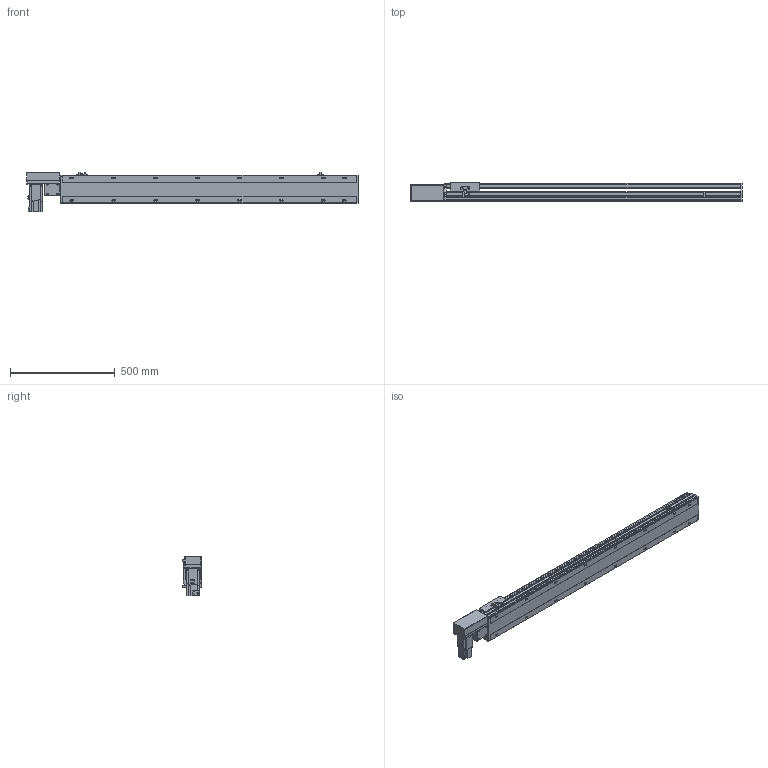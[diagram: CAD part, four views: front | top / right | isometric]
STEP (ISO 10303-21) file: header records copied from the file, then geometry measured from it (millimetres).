
FILE_DESCRIPTION( ( 'STEP AP214' ), '1' );
FILE_NAME( 'x:/temp/worker_6/temp/exporttempdir_5396_60_JbWYT/format_0/PBS140S-P40-S1150-R-T40-C1-N(0).stp', '2022-06-09T00:17:21', ( 'License CC BY-ND 4.0' ), ( 'CADENAS' ), ' ', 'PARTsolutions', ' ' );
FILE_SCHEMA( ( 'AUTOMOTIVE_DESIGN { 1 0 10303 214 1 1 1 1 }' ) );
Length unit declared in the file: millimetre
Products named in the file (7): PBS140S-P40-S1150-R-T40-C1-N(0); _PBS140S-S1150()_body; _PBS140ST-R_motors; _T40-p1; _PBS140S_sliser; _PBS140S_plant; _PBS140S_sensor
Assembly tree (8 placements, depth 2):
  PBS140S-P40-S1150-R-T40-C1-N(0)
    _PBS140S-S1150()_body
    _PBS140ST-R_motors
    _T40-p1
    _PBS140S_sliser
    _PBS140S_plant
    _PBS140S_sensor  x3
Bounding box: 1583 x 93 x 189.7 mm (x, y, z)
Volume: 7721954.3 mm3; surface area: 1331102.2 mm2
Topology: 8 solids, 8 shells, 1099 faces, 2911 edges, 1905 vertices
Faces by surface type: plane 702, cylinder 345, cone 42, sphere 8, torus 2
Full cylindrical faces by diameter (mm): 3.242 x4, 4 x2, 4.134 x4, 4.4 x8, 4.5 x2, 4.8 x4, 4.917 x24, 5.5 x7, 6 x2, 7 x18, 7.5 x8, 8 x12, 8.5 x4, 10.5 x16, 14 x1, 30 x2, 50 x2
Entity records: 40336 total; most frequent: CARTESIAN_POINT 6406, DIRECTION 5348, ORIENTED_EDGE 5062, EDGE_CURVE 2531, AXIS2_PLACEMENT_3D 1859, VERTEX_POINT 1753, LINE 1630, VECTOR 1630
